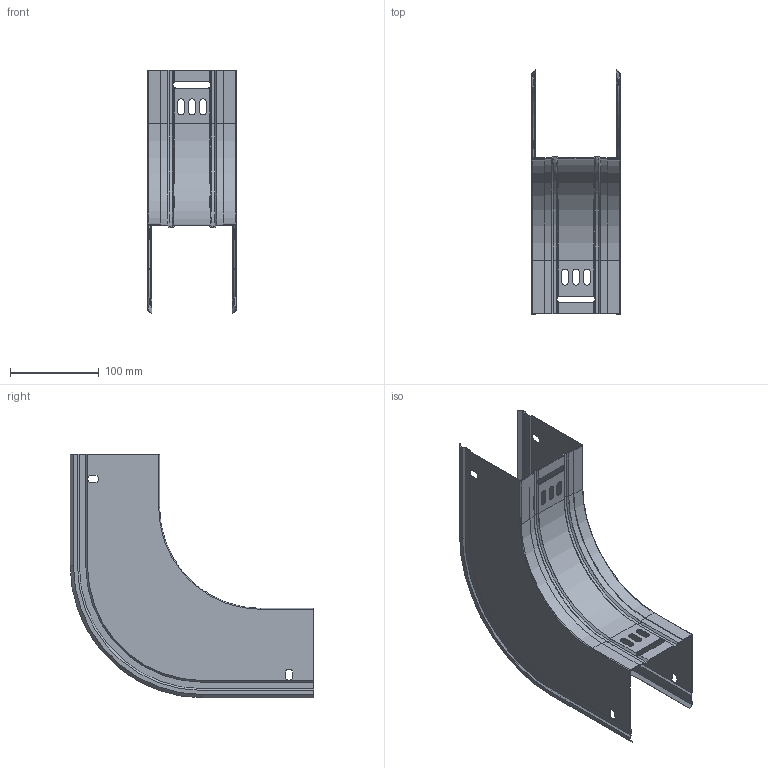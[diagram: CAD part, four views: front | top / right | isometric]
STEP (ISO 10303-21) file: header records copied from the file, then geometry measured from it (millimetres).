
FILE_DESCRIPTION (( 'STEP AP203' ), '1' );
FILE_NAME ('ERE_CONVEXA 100x100.step', '2023-07-27T18:49:29', ( '' ), ( '' ), 'SwSTEP 2.0', 'SolidWorks 2022', '' );
FILE_SCHEMA (( 'CONFIG_CONTROL_DESIGN' ));
Length unit declared in the file: millimetre
Products named in the file (3): ERE_CONVEXA 100x100; ERE_LATERAL CX_100; ERE_BASE CX_100
Assembly tree (3 placements, depth 2):
  ERE_CONVEXA 100x100
    ERE_BASE CX_100
    ERE_LATERAL CX_100  x2
Bounding box: 100 x 275.2 x 275.2 mm (x, y, z)
Volume: 101405.3 mm3; surface area: 256278.5 mm2
Topology: 3 solids, 3 shells, 210 faces, 560 edges, 348 vertices
Faces by surface type: plane 134, cylinder 50, cone 22, torus 4
Entity records: 5088 total; most frequent: CARTESIAN_POINT 862, ORIENTED_EDGE 822, DIRECTION 815, EDGE_CURVE 411, LINE 301, VECTOR 301, AXIS2_PLACEMENT_3D 257, VERTEX_POINT 256
